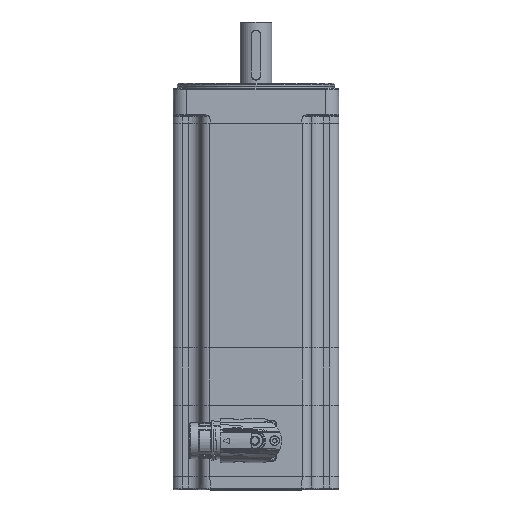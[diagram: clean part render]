
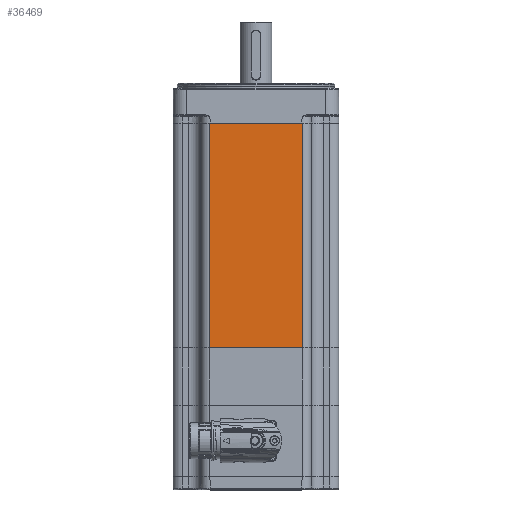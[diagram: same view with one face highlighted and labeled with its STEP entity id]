
A CAD part, top view. The second image highlights one B-rep face of the part: STEP entity #36469.
In plain terms, the highlighted planar face has unit normal (0, 0, 1).
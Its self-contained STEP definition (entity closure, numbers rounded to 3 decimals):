
#5508=ORIENTED_EDGE('',*,*,#11804,.T.);
#5509=ORIENTED_EDGE('',*,*,#11737,.T.);
#5510=ORIENTED_EDGE('',*,*,#11805,.T.);
#5511=ORIENTED_EDGE('',*,*,#11767,.T.);
#11737=EDGE_CURVE('',#15090,#15091,#17776,.T.);
#11767=EDGE_CURVE('',#15121,#15119,#17788,.T.);
#11804=EDGE_CURVE('',#15119,#15090,#17806,.T.);
#11805=EDGE_CURVE('',#15091,#15121,#17807,.T.);
#15090=VERTEX_POINT('',#51924);
#15091=VERTEX_POINT('',#51925);
#15119=VERTEX_POINT('',#51983);
#15121=VERTEX_POINT('',#51986);
#17776=LINE('',#51923,#19496);
#17788=LINE('',#51985,#19508);
#17806=LINE('',#52063,#19526);
#17807=LINE('',#52064,#19527);
#19496=VECTOR('',#42464,1000.);
#19508=VECTOR('',#42514,1000.);
#19526=VECTOR('',#42592,1000.);
#19527=VECTOR('',#42593,1000.);
#20904=EDGE_LOOP('',(#5508,#5509,#5510,#5511));
#23116=FACE_BOUND('',#20904,.T.);
#25106=PLANE('',#38354);
#36469=ADVANCED_FACE('',(#23116),#25106,.T.);
#38354=AXIS2_PLACEMENT_3D('',#52062,#42590,#42591);
#42464=DIRECTION('',(-1.,0.,0.));
#42514=DIRECTION('',(1.,0.,0.));
#42590=DIRECTION('',(0.,0.,1.));
#42591=DIRECTION('',(1.,0.,0.));
#42592=DIRECTION('',(0.,1.,0.));
#42593=DIRECTION('',(0.,-1.,0.));
#51923=CARTESIAN_POINT('',(50.,136.5,50.));
#51924=CARTESIAN_POINT('',(27.75,136.5,50.));
#51925=CARTESIAN_POINT('',(-27.75,136.5,50.));
#51983=CARTESIAN_POINT('',(27.75,1.,50.));
#51985=CARTESIAN_POINT('',(50.,1.,50.));
#51986=CARTESIAN_POINT('',(-27.75,1.,50.));
#52062=CARTESIAN_POINT('',(50.,200.,50.));
#52063=CARTESIAN_POINT('',(27.75,200.,50.));
#52064=CARTESIAN_POINT('',(-27.75,200.,50.));
